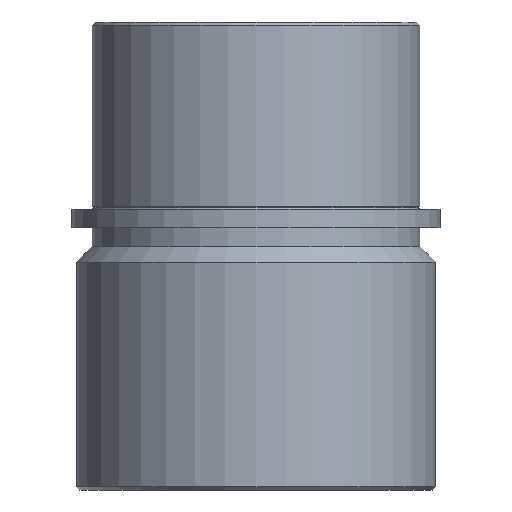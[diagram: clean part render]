
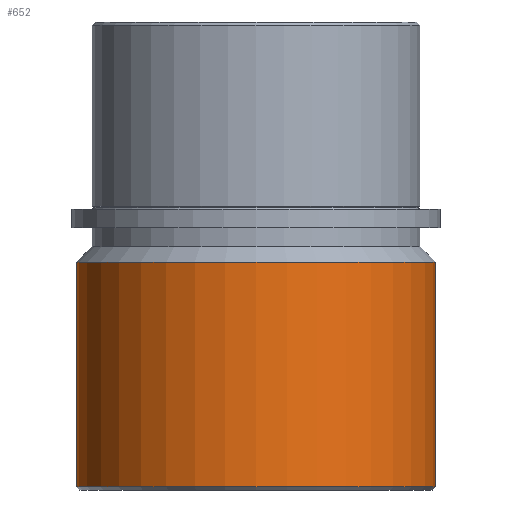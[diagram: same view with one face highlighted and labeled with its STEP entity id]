
A CAD part, front view. The second image highlights one B-rep face of the part: STEP entity #652.
In plain terms, the highlighted cylindrical face has radius 57.5 mm (diameter 115 mm), a partial arc.
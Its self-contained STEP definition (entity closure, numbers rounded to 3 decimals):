
#95 = VERTEX_POINT ( 'NONE', #763 ) ;
#124 = ORIENTED_EDGE ( 'NONE', *, *, #914, .F. ) ;
#146 = DIRECTION ( 'NONE',  ( 1., 0., 0. ) ) ;
#154 = CARTESIAN_POINT ( 'NONE',  ( 0., 0., -149. ) ) ;
#176 = EDGE_CURVE ( 'NONE', #95, #1020, #207, .T. ) ;
#189 = EDGE_LOOP ( 'NONE', ( #350, #916, #779, #124 ) ) ;
#207 = LINE ( 'NONE', #343, #373 ) ;
#209 = DIRECTION ( 'NONE',  ( 0., 0., 1. ) ) ;
#282 = DIRECTION ( 'NONE',  ( 0., 0., 1. ) ) ;
#311 = DIRECTION ( 'NONE',  ( 1., 0., 0. ) ) ;
#343 = CARTESIAN_POINT ( 'NONE',  ( -57.5, 0., 0. ) ) ;
#350 = ORIENTED_EDGE ( 'NONE', *, *, #176, .F. ) ;
#362 = CARTESIAN_POINT ( 'NONE',  ( 57.5, 0., -149. ) ) ;
#373 = VECTOR ( 'NONE', #864, 1000. ) ;
#394 = CARTESIAN_POINT ( 'NONE',  ( 0., 0., 0. ) ) ;
#408 = CARTESIAN_POINT ( 'NONE',  ( -57.5, 0., -77. ) ) ;
#412 = FACE_OUTER_BOUND ( 'NONE', #189, .T. ) ;
#425 = VERTEX_POINT ( 'NONE', #362 ) ;
#444 = CARTESIAN_POINT ( 'NONE',  ( 57.5, 0., 0. ) ) ;
#449 = EDGE_CURVE ( 'NONE', #425, #907, #625, .T. ) ;
#463 = DIRECTION ( 'NONE',  ( 0., 0., 1. ) ) ;
#566 = CIRCLE ( 'NONE', #1049, 57.5 ) ;
#625 = LINE ( 'NONE', #444, #649 ) ;
#627 = CIRCLE ( 'NONE', #906, 57.5 ) ;
#649 = VECTOR ( 'NONE', #1042, 1000. ) ;
#652 = ADVANCED_FACE ( 'NONE', ( #412 ), #1031, .T. ) ;
#694 = EDGE_CURVE ( 'NONE', #95, #425, #566, .T. ) ;
#720 = DIRECTION ( 'NONE',  ( 1., 0., 0. ) ) ;
#763 = CARTESIAN_POINT ( 'NONE',  ( -57.5, 0., -149. ) ) ;
#779 = ORIENTED_EDGE ( 'NONE', *, *, #449, .T. ) ;
#801 = CARTESIAN_POINT ( 'NONE',  ( 57.5, 0., -77. ) ) ;
#864 = DIRECTION ( 'NONE',  ( 0., 0., 1. ) ) ;
#906 = AXIS2_PLACEMENT_3D ( 'NONE', #973, #463, #146 ) ;
#907 = VERTEX_POINT ( 'NONE', #801 ) ;
#914 = EDGE_CURVE ( 'NONE', #1020, #907, #627, .T. ) ;
#916 = ORIENTED_EDGE ( 'NONE', *, *, #694, .T. ) ;
#973 = CARTESIAN_POINT ( 'NONE',  ( 0., 0., -77. ) ) ;
#996 = AXIS2_PLACEMENT_3D ( 'NONE', #394, #282, #720 ) ;
#1020 = VERTEX_POINT ( 'NONE', #408 ) ;
#1031 = CYLINDRICAL_SURFACE ( 'NONE', #996, 57.5 ) ;
#1042 = DIRECTION ( 'NONE',  ( 0., 0., 1. ) ) ;
#1049 = AXIS2_PLACEMENT_3D ( 'NONE', #154, #209, #311 ) ;
